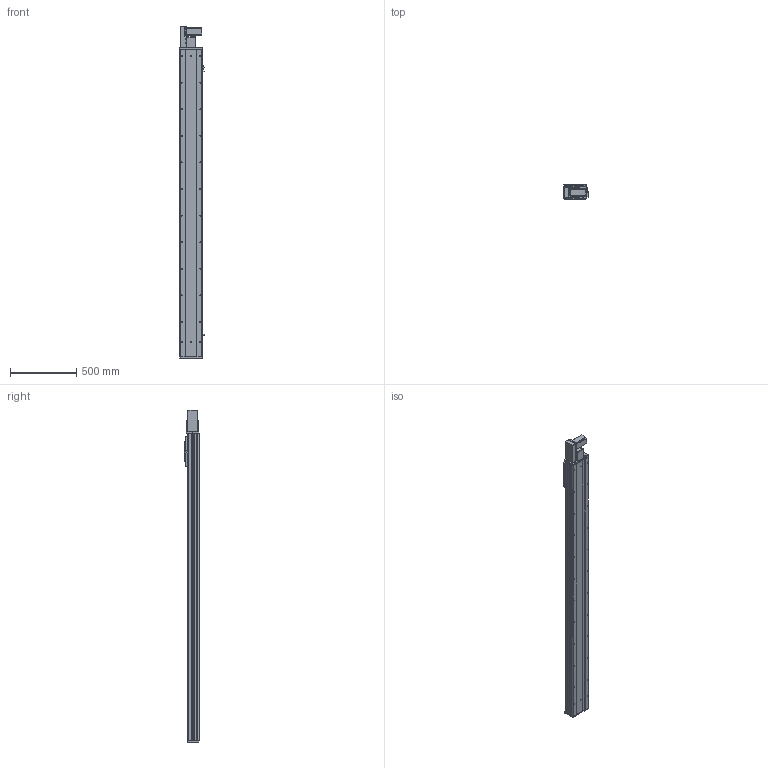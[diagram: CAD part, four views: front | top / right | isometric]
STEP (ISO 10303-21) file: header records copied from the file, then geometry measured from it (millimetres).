
FILE_DESCRIPTION (( 'STEP AP203' ), '1' );
FILE_NAME ('Y170CB-D105-S2000-BL-P400W.STEP', '2020-02-20T01:37:17', ( '微软用户' ), ( '微软中国' ), 'SwSTEP 2.0', 'SolidWorks 2017', '' );
FILE_SCHEMA (( 'CONFIG_CONTROL_DESIGN' ));
Length unit declared in the file: millimetre
Products named in the file (18): 17B-耜蚾蟀諉啣----; 70C-雄赽釱-奻-; 0B-萇儂楊擘啣; 0C--雄赽釱俋欶-170; san松下电机400不带刹车----; 70CB-詩湍--; Y70俋欶BR----; Y100-135俋离換覜ん--; 70CB-掛极-; Y170CB-陔俋离換覜結え---; --70CB --喘謫眊楊擘啣-; 70B喘謫眊----; 70CB-耜裔啣-; Y1埴倛裔; 70C--詩湍揤踡え-; B-源倛裔啣; Y170CB-D105-S2000-BL-P400W; 70CB--耜裔
Assembly tree (21 placements, depth 2):
  Y170CB-D105-S2000-BL-P400W
    B-源倛裔啣
    17B-耜蚾蟀諉啣----
    0B-萇儂楊擘啣
    san松下电机400不带刹车----
    Y70俋欶BR----
    70CB-掛极-
    --70CB --喘謫眊楊擘啣-
    70CB-耜裔啣-  x2
    70C--詩湍揤踡え-  x2
    70CB--耜裔
    70C-雄赽釱-奻-
    0C--雄赽釱俋欶-170
    70CB-詩湍--
    Y100-135俋离換覜ん--  x3
    Y170CB-陔俋离換覜結え---
    70B喘謫眊----
    Y1埴倛裔
Bounding box: 183.5 x 107 x 2497 mm (x, y, z)
Volume: 10474977.5 mm3; surface area: 3774794.3 mm2
Topology: 21 solids, 21 shells, 1047 faces, 2813 edges, 1866 vertices
Faces by surface type: cylinder 559, plane 464, cone 24
Entity records: 33488 total; most frequent: CARTESIAN_POINT 6156, DIRECTION 5446, ORIENTED_EDGE 5108, EDGE_CURVE 2554, AXIS2_PLACEMENT_3D 2004, VERTEX_POINT 1696, LINE 1438, VECTOR 1438
